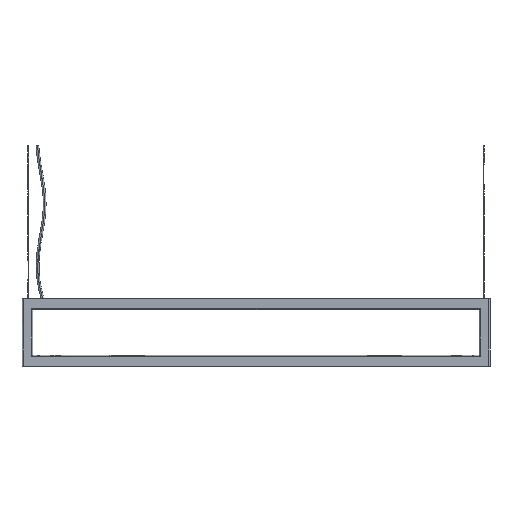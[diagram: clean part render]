
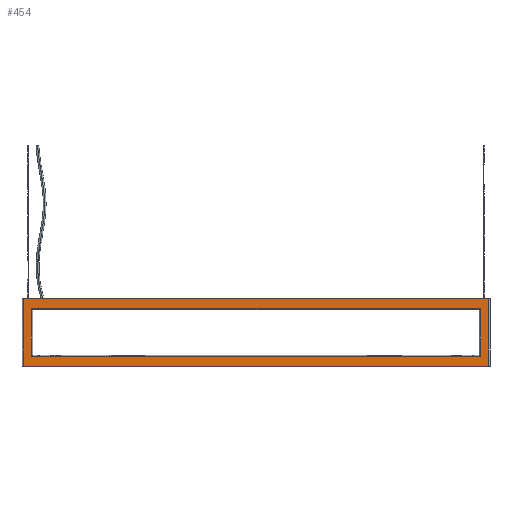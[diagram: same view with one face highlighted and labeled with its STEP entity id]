
A CAD part, left-side view. The second image highlights one B-rep face of the part: STEP entity #454.
In plain terms, the highlighted free-form (B-spline) face has degree [1, 1] with [2, 2] control points.
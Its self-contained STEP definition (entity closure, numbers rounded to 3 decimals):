
#15=FACE_BOUND('',#533,.T.);
#22=B_SPLINE_SURFACE_WITH_KNOTS('',1,1,((#2910,#2911),(#2912,#2913)),
 .UNSPECIFIED.,.F.,.F.,.F.,(2,2),(2,2),(-761.315,761.315),
(-110.,110.),.UNSPECIFIED.);
#454=ADVANCED_FACE('',(#491,#15),#22,.T.);
#491=FACE_OUTER_BOUND('',#532,.T.);
#532=EDGE_LOOP('',(#622,#623,#624,#625));
#533=EDGE_LOOP('',(#626,#627,#628,#629));
#622=ORIENTED_EDGE('',*,*,#1636,.T.);
#623=ORIENTED_EDGE('',*,*,#1637,.T.);
#624=ORIENTED_EDGE('',*,*,#1638,.T.);
#625=ORIENTED_EDGE('',*,*,#1639,.T.);
#626=ORIENTED_EDGE('',*,*,#1640,.T.);
#627=ORIENTED_EDGE('',*,*,#1641,.T.);
#628=ORIENTED_EDGE('',*,*,#1642,.T.);
#629=ORIENTED_EDGE('',*,*,#1643,.T.);
#808=PCURVE('',#22,#994);
#809=PCURVE('',#22,#995);
#810=PCURVE('',#22,#996);
#811=PCURVE('',#22,#997);
#812=PCURVE('',#22,#998);
#813=PCURVE('',#22,#999);
#814=PCURVE('',#22,#1000);
#815=PCURVE('',#22,#1001);
#994=DEFINITIONAL_REPRESENTATION('',(#1210),#4124);
#995=DEFINITIONAL_REPRESENTATION('',(#1211),#4124);
#996=DEFINITIONAL_REPRESENTATION('',(#1213),#4124);
#997=DEFINITIONAL_REPRESENTATION('',(#1214),#4124);
#998=DEFINITIONAL_REPRESENTATION('',(#1216),#4124);
#999=DEFINITIONAL_REPRESENTATION('',(#1218),#4124);
#1000=DEFINITIONAL_REPRESENTATION('',(#1219),#4124);
#1001=DEFINITIONAL_REPRESENTATION('',(#1221),#4124);
#1209=B_SPLINE_CURVE_WITH_KNOTS('',1,(#2922,#2923),.UNSPECIFIED.,.F.,.F.,
(2,2),(-1124.,0.),.UNSPECIFIED.);
#1210=B_SPLINE_CURVE_WITH_KNOTS('',1,(#2924,#2925),.UNSPECIFIED.,.F.,.F.,
(2,2),(-1124.,0.),.UNSPECIFIED.);
#1211=B_SPLINE_CURVE_WITH_KNOTS('',1,(#2928,#2929),.UNSPECIFIED.,.F.,.F.,
(2,2),(-220.,0.),.UNSPECIFIED.);
#1212=B_SPLINE_CURVE_WITH_KNOTS('',1,(#2930,#2931),.UNSPECIFIED.,.F.,.F.,
(2,2),(-1124.,0.),.UNSPECIFIED.);
#1213=B_SPLINE_CURVE_WITH_KNOTS('',1,(#2932,#2933),.UNSPECIFIED.,.F.,.F.,
(2,2),(-1124.,0.),.UNSPECIFIED.);
#1214=B_SPLINE_CURVE_WITH_KNOTS('',1,(#2936,#2937),.UNSPECIFIED.,.F.,.F.,
(2,2),(-220.,0.),.UNSPECIFIED.);
#1215=B_SPLINE_CURVE_WITH_KNOTS('',1,(#2938,#2939),.UNSPECIFIED.,.F.,.F.,
(2,2),(-156.,0.),.UNSPECIFIED.);
#1216=B_SPLINE_CURVE_WITH_KNOTS('',1,(#2940,#2941),.UNSPECIFIED.,.F.,.F.,
(2,2),(-156.,0.),.UNSPECIFIED.);
#1217=B_SPLINE_CURVE_WITH_KNOTS('',1,(#2942,#2943),.UNSPECIFIED.,.F.,.F.,
(2,2),(-1066.,0.),.UNSPECIFIED.);
#1218=B_SPLINE_CURVE_WITH_KNOTS('',1,(#2944,#2945),.UNSPECIFIED.,.F.,.F.,
(2,2),(-1066.,0.),.UNSPECIFIED.);
#1219=B_SPLINE_CURVE_WITH_KNOTS('',1,(#2948,#2949),.UNSPECIFIED.,.F.,.F.,
(2,2),(-156.,0.),.UNSPECIFIED.);
#1220=B_SPLINE_CURVE_WITH_KNOTS('',1,(#2950,#2951),.UNSPECIFIED.,.F.,.F.,
(2,2),(-1066.,0.),.UNSPECIFIED.);
#1221=B_SPLINE_CURVE_WITH_KNOTS('',1,(#2952,#2953),.UNSPECIFIED.,.F.,.F.,
(2,2),(-1066.,0.),.UNSPECIFIED.);
#1450=SURFACE_CURVE('',#1209,(#808),.PCURVE_S1.);
#1451=SURFACE_CURVE('',#1793,(#809),.PCURVE_S1.);
#1452=SURFACE_CURVE('',#1212,(#810),.PCURVE_S1.);
#1453=SURFACE_CURVE('',#1794,(#811),.PCURVE_S1.);
#1454=SURFACE_CURVE('',#1215,(#812),.PCURVE_S1.);
#1455=SURFACE_CURVE('',#1217,(#813),.PCURVE_S1.);
#1456=SURFACE_CURVE('',#1795,(#814),.PCURVE_S1.);
#1457=SURFACE_CURVE('',#1220,(#815),.PCURVE_S1.);
#1636=EDGE_CURVE('',#1926,#1927,#1450,.T.);
#1637=EDGE_CURVE('',#1927,#1925,#1451,.T.);
#1638=EDGE_CURVE('',#1925,#1924,#1452,.T.);
#1639=EDGE_CURVE('',#1924,#1926,#1453,.T.);
#1640=EDGE_CURVE('',#1928,#1931,#1454,.T.);
#1641=EDGE_CURVE('',#1931,#1930,#1455,.T.);
#1642=EDGE_CURVE('',#1930,#1929,#1456,.T.);
#1643=EDGE_CURVE('',#1929,#1928,#1457,.T.);
#1793=(
BOUNDED_CURVE()
B_SPLINE_CURVE(1,(#2926,#2927),.UNSPECIFIED.,.F.,.F.)
B_SPLINE_CURVE_WITH_KNOTS((2,2),(-220.,0.),.UNSPECIFIED.)
CURVE()
GEOMETRIC_REPRESENTATION_ITEM()
RATIONAL_B_SPLINE_CURVE((1.,1.))
REPRESENTATION_ITEM('')
);
#1794=(
BOUNDED_CURVE()
B_SPLINE_CURVE(1,(#2934,#2935),.UNSPECIFIED.,.F.,.F.)
B_SPLINE_CURVE_WITH_KNOTS((2,2),(-220.,0.),.UNSPECIFIED.)
CURVE()
GEOMETRIC_REPRESENTATION_ITEM()
RATIONAL_B_SPLINE_CURVE((1.,1.))
REPRESENTATION_ITEM('')
);
#1795=(
BOUNDED_CURVE()
B_SPLINE_CURVE(1,(#2946,#2947),.UNSPECIFIED.,.F.,.F.)
B_SPLINE_CURVE_WITH_KNOTS((2,2),(-156.,0.),.UNSPECIFIED.)
CURVE()
GEOMETRIC_REPRESENTATION_ITEM()
RATIONAL_B_SPLINE_CURVE((1.,1.))
REPRESENTATION_ITEM('')
);
#1924=VERTEX_POINT('',#2914);
#1925=VERTEX_POINT('',#2915);
#1926=VERTEX_POINT('',#2916);
#1927=VERTEX_POINT('',#2917);
#1928=VERTEX_POINT('',#2918);
#1929=VERTEX_POINT('',#2919);
#1930=VERTEX_POINT('',#2920);
#1931=VERTEX_POINT('',#2921);
#2910=CARTESIAN_POINT('',(0.,967.519,-645.));
#2911=CARTESIAN_POINT('',(0.,967.519,-425.));
#2912=CARTESIAN_POINT('',(0.,-555.112,-645.));
#2913=CARTESIAN_POINT('',(0.,-555.112,-425.));
#2914=CARTESIAN_POINT('',(0.,-555.112,-645.));
#2915=CARTESIAN_POINT('',(0.,967.519,-645.));
#2916=CARTESIAN_POINT('',(0.,-555.112,-425.));
#2917=CARTESIAN_POINT('',(0.,967.519,-425.));
#2918=CARTESIAN_POINT('',(0.,940.647,-613.));
#2919=CARTESIAN_POINT('',(0.,-528.24,-613.));
#2920=CARTESIAN_POINT('',(0.,-528.24,-457.));
#2921=CARTESIAN_POINT('',(0.,940.647,-457.));
#2922=CARTESIAN_POINT('',(0.,-555.112,-425.));
#2923=CARTESIAN_POINT('',(0.,967.519,-425.));
#2924=CARTESIAN_POINT('',(761.315,110.));
#2925=CARTESIAN_POINT('',(-761.315,110.));
#2926=CARTESIAN_POINT('',(0.,967.519,-425.));
#2927=CARTESIAN_POINT('',(0.,967.519,-645.));
#2928=CARTESIAN_POINT('',(-761.315,110.));
#2929=CARTESIAN_POINT('',(-761.315,-110.));
#2930=CARTESIAN_POINT('',(0.,967.519,-645.));
#2931=CARTESIAN_POINT('',(0.,-555.112,-645.));
#2932=CARTESIAN_POINT('',(-761.315,-110.));
#2933=CARTESIAN_POINT('',(761.315,-110.));
#2934=CARTESIAN_POINT('',(0.,-555.112,-645.));
#2935=CARTESIAN_POINT('',(0.,-555.112,-425.));
#2936=CARTESIAN_POINT('',(761.315,-110.));
#2937=CARTESIAN_POINT('',(761.315,110.));
#2938=CARTESIAN_POINT('',(0.,940.647,-613.));
#2939=CARTESIAN_POINT('',(0.,940.647,-457.));
#2940=CARTESIAN_POINT('',(-734.444,-78.));
#2941=CARTESIAN_POINT('',(-734.444,78.));
#2942=CARTESIAN_POINT('',(0.,940.647,-457.));
#2943=CARTESIAN_POINT('',(0.,-528.24,-457.));
#2944=CARTESIAN_POINT('',(-734.444,78.));
#2945=CARTESIAN_POINT('',(734.444,78.));
#2946=CARTESIAN_POINT('',(0.,-528.24,-457.));
#2947=CARTESIAN_POINT('',(0.,-528.24,-613.));
#2948=CARTESIAN_POINT('',(734.444,78.));
#2949=CARTESIAN_POINT('',(734.444,-78.));
#2950=CARTESIAN_POINT('',(0.,-528.24,-613.));
#2951=CARTESIAN_POINT('',(0.,940.647,-613.));
#2952=CARTESIAN_POINT('',(734.444,-78.));
#2953=CARTESIAN_POINT('',(-734.444,-78.));
#4124=(
GEOMETRIC_REPRESENTATION_CONTEXT(2)
PARAMETRIC_REPRESENTATION_CONTEXT()
REPRESENTATION_CONTEXT('pspace','')
);
